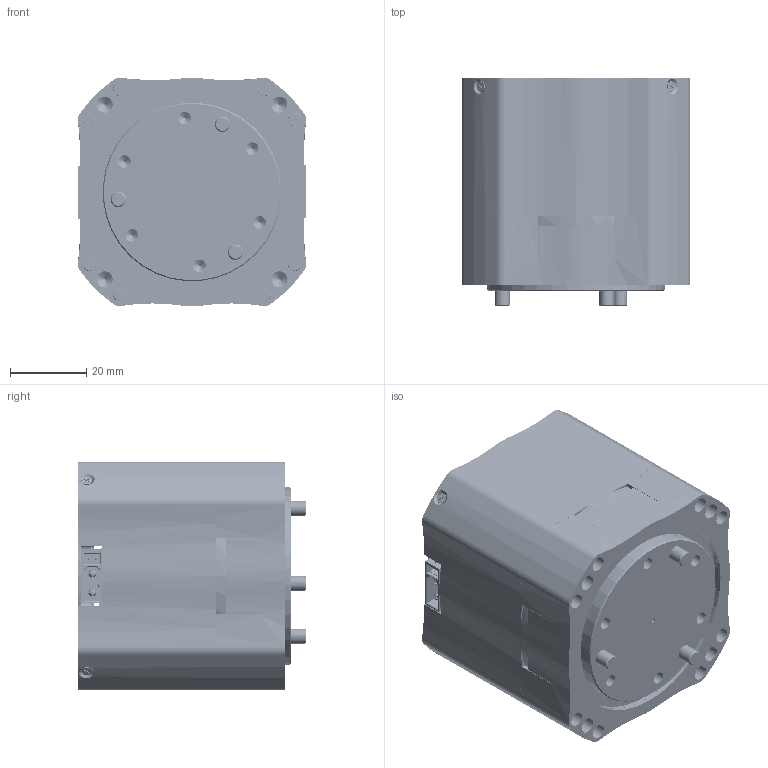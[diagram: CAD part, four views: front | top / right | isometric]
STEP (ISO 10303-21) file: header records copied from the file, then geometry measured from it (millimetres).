
FILE_DESCRIPTION (( 'STEP AP203' ), '1' );
FILE_NAME ('俴陎耀郪600726-潠趙.STEP', '2024-07-26T08:59:03', ( 'China' ), ( 'Microsoft' ), 'SwSTEP 2.0', 'SolidWorks 2022', '' );
FILE_SCHEMA (( 'CONFIG_CONTROL_DESIGN' ));
Length unit declared in the file: millimetre
Products named in the file (12): 外壳0620; 内六角圆柱头螺钉_3.5头_M2.5×8; 销4-7; 6056-45-55-6-6709 2rs; 沉头十字_M2锁电板螺丝1_D_k=2.6mm,L=3mm; 二级内齿0620; 3D_双编-6055_V1.0.0531__2024-06-110620; 输出盘0620; 电机盖6055端子版0620; 轴承座0620; 行星模组600726-简化; 60配重
Assembly tree (23 placements, depth 2):
  行星模组600726-简化
    外壳0620
    轴承座0620
    二级内齿0620
    6056-45-55-6-6709 2rs
    输出盘0620
    电机盖6055端子版0620
    3D_双编-6055_V1.0.0531__2024-06-110620
    60配重
    销4-7  x3
    内六角圆柱头螺钉_3.5头_M2.5×8  x8
    沉头十字_M2锁电板螺丝1_D_k=2.6mm,L=3mm  x4
Bounding box: 60.03 x 60 x 60 mm (x, y, z)
Volume: 173963.9 mm3; surface area: 82910.4 mm2
Topology: 125 solids, 125 shells, 13448 faces, 35540 edges, 22840 vertices
Faces by surface type: plane 7110, bspline 3409, cylinder 2116, sphere 352, torus 270, cone 191
Entity records: 461333 total; most frequent: CARTESIAN_POINT 156949, ORIENTED_EDGE 69460, DIRECTION 50520, EDGE_CURVE 34730, VERTEX_POINT 22513, VECTOR 22286, LINE 22286, AXIS2_PLACEMENT_3D 14117
